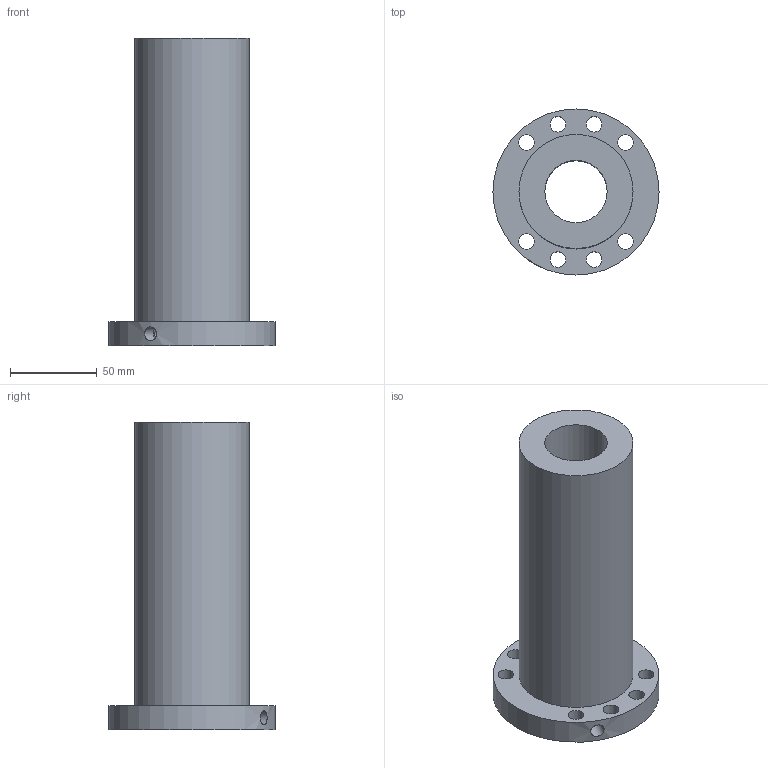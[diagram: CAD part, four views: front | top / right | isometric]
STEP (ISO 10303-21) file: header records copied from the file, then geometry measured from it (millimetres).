
FILE_DESCRIPTION(/* description */ (''),/* implementation_level */ '2;1');
FILE_NAME(/* name */ '36-12K5_635',/* time_stamp */ '2007-10-15T12:53:59+08:00',/* author */ (''),/* organization */ (''),/* preprocessor_version */ 'ST-DEVELOPER v11',/* originating_system */ 'UGS - NX 5.0',/* authorisation */ '');
FILE_SCHEMA (('CONFIG_CONTROL_DESIGN'));
Length unit declared in the file: millimetre
Products named in the file (1): 36-12K5_635
Bounding box: 96 x 96 x 178 mm (x, y, z)
Volume: 473036.6 mm3; surface area: 73519.7 mm2
Topology: 1 solids, 1 shells, 17 faces, 40 edges, 27 vertices
Faces by surface type: cylinder 13, plane 4
Full cylindrical faces by diameter (mm): 6 x1, 8 x1, 9 x8, 36 x1, 66 x1, 96 x1
Entity records: 668 total; most frequent: CARTESIAN_POINT 184, DIRECTION 84, FACE_BOUND 52, EDGE_LOOP 52, ORIENTED_EDGE 52, AXIS2_PLACEMENT_3D 42, VERTEX_POINT 26, EDGE_CURVE 26
